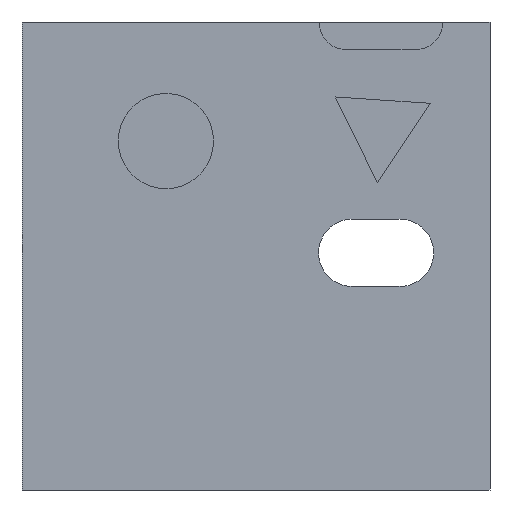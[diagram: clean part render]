
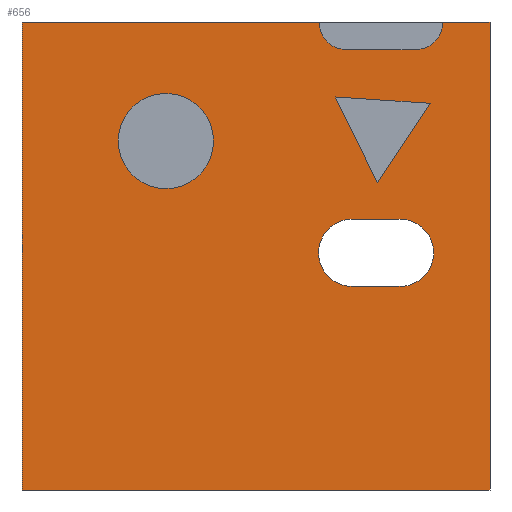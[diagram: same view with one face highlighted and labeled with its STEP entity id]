
A CAD part, left-side view. The second image highlights one B-rep face of the part: STEP entity #656.
In plain terms, the highlighted planar face has unit normal (-1, 0, 0).
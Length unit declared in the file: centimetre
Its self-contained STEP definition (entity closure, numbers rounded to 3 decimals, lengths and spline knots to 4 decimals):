
#2 = EDGE_CURVE ( 'NONE', #1481, #1441, #1177, .T. ) ;
#13 = CARTESIAN_POINT ( 'NONE',  ( 0., 1000., 1000. ) ) ;
#22 = ORIENTED_EDGE ( 'NONE', *, *, #423, .F. ) ;
#26 = DIRECTION ( 'NONE',  ( 0., 0., -1. ) ) ;
#49 = CARTESIAN_POINT ( 'NONE',  ( 0., 127.5835, 826.3432 ) ) ;
#66 = CIRCLE ( 'NONE', #1091, 101.7197 ) ;
#68 = ORIENTED_EDGE ( 'NONE', *, *, #615, .T. ) ;
#87 = CARTESIAN_POINT ( 'NONE',  ( 0., 127.5835, 826.3432 ) ) ;
#91 = VECTOR ( 'NONE', #1482, 100. ) ;
#92 = CARTESIAN_POINT ( 'NONE',  ( 0., 294.3536, 578.862 ) ) ;
#129 = ORIENTED_EDGE ( 'NONE', *, *, #510, .F. ) ;
#137 = VECTOR ( 'NONE', #753, 100. ) ;
#140 = DIRECTION ( 'NONE',  ( 0., 0., -1. ) ) ;
#158 = CARTESIAN_POINT ( 'NONE',  ( 0., 1000., 1000. ) ) ;
#170 = CARTESIAN_POINT ( 'NONE',  ( 0., 294.3536, 506.8964 ) ) ;
#172 = CARTESIAN_POINT ( 'NONE',  ( 0., 192.2931, 434.9308 ) ) ;
#176 = CARTESIAN_POINT ( 'NONE',  ( 0., 692.5034, 745.5898 ) ) ;
#177 = ORIENTED_EDGE ( 'NONE', *, *, #807, .F. ) ;
#197 = EDGE_CURVE ( 'NONE', #829, #970, #257, .T. ) ;
#206 = VECTOR ( 'NONE', #876, 100. ) ;
#237 = AXIS2_PLACEMENT_3D ( 'NONE', #170, #611, #26 ) ;
#241 = EDGE_CURVE ( 'NONE', #1432, #482, #503, .T. ) ;
#257 = CIRCLE ( 'NONE', #292, 59.2285 ) ;
#280 = AXIS2_PLACEMENT_3D ( 'NONE', #434, #561, #1129 ) ;
#281 = CARTESIAN_POINT ( 'NONE',  ( 0., 305.8696, 940.7715 ) ) ;
#292 = AXIS2_PLACEMENT_3D ( 'NONE', #1438, #382, #757 ) ;
#297 = CARTESIAN_POINT ( 'NONE',  ( 0., 305.8696, 1000. ) ) ;
#301 = CARTESIAN_POINT ( 'NONE',  ( 0., 330.5135, 839.7501 ) ) ;
#313 = CARTESIAN_POINT ( 'NONE',  ( 0., 240.6592, 657.304 ) ) ;
#332 = VECTOR ( 'NONE', #1382, 100. ) ;
#340 = DIRECTION ( 'NONE',  ( 0., 0., -1. ) ) ;
#342 = ORIENTED_EDGE ( 'NONE', *, *, #1016, .T. ) ;
#379 = ORIENTED_EDGE ( 'NONE', *, *, #842, .T. ) ;
#382 = DIRECTION ( 'NONE',  ( -1., 0., 0. ) ) ;
#400 = VERTEX_POINT ( 'NONE', #281 ) ;
#403 = CARTESIAN_POINT ( 'NONE',  ( 0., 1000., 0. ) ) ;
#419 = LINE ( 'NONE', #894, #91 ) ;
#423 = EDGE_CURVE ( 'NONE', #400, #829, #1095, .T. ) ;
#434 = CARTESIAN_POINT ( 'NONE',  ( 0., 192.2931, 506.8964 ) ) ;
#440 = CARTESIAN_POINT ( 'NONE',  ( 0., 0., 1000. ) ) ;
#443 = CARTESIAN_POINT ( 'NONE',  ( 0., 294.3536, 434.9308 ) ) ;
#456 = ORIENTED_EDGE ( 'NONE', *, *, #197, .F. ) ;
#482 = VERTEX_POINT ( 'NONE', #1049 ) ;
#503 = LINE ( 'NONE', #980, #1498 ) ;
#507 = VECTOR ( 'NONE', #760, 100. ) ;
#510 = EDGE_CURVE ( 'NONE', #1184, #838, #1062, .T. ) ;
#512 = DIRECTION ( 'NONE',  ( 0., 0., 1. ) ) ;
#514 = CARTESIAN_POINT ( 'NONE',  ( 0., 1000., 1000. ) ) ;
#521 = EDGE_LOOP ( 'NONE', ( #1136, #379, #342, #68 ) ) ;
#522 = ORIENTED_EDGE ( 'NONE', *, *, #1064, .F. ) ;
#523 = FACE_BOUND ( 'NONE', #1198, .T. ) ;
#529 = VECTOR ( 'NONE', #1351, 100. ) ;
#534 = CARTESIAN_POINT ( 'NONE',  ( 0., 330.5135, 839.7501 ) ) ;
#559 = AXIS2_PLACEMENT_3D ( 'NONE', #297, #758, #340 ) ;
#561 = DIRECTION ( 'NONE',  ( 1., 0., 0. ) ) ;
#568 = CARTESIAN_POINT ( 'NONE',  ( 0., 692.5034, 745.5898 ) ) ;
#572 = CARTESIAN_POINT ( 'NONE',  ( 0., 100.9507, 1000. ) ) ;
#577 = VECTOR ( 'NONE', #998, 100. ) ;
#598 = VERTEX_POINT ( 'NONE', #49 ) ;
#611 = DIRECTION ( 'NONE',  ( 1., 0., 0. ) ) ;
#615 = EDGE_CURVE ( 'NONE', #824, #1432, #664, .T. ) ;
#632 = FACE_BOUND ( 'NONE', #521, .T. ) ;
#656 = ADVANCED_FACE ( 'NONE', ( #729, #632, #523, #1004 ), #723, .F. ) ;
#664 = CIRCLE ( 'NONE', #237, 71.9656 ) ;
#666 = LINE ( 'NONE', #301, #507 ) ;
#667 = LINE ( 'NONE', #87, #137 ) ;
#691 = CARTESIAN_POINT ( 'NONE',  ( 0., 240.6592, 657.304 ) ) ;
#723 = PLANE ( 'NONE',  #782 ) ;
#729 = FACE_BOUND ( 'NONE', #958, .T. ) ;
#753 = DIRECTION ( 'NONE',  ( 0., 0.998, 0.066 ) ) ;
#757 = DIRECTION ( 'NONE',  ( 0., 0., -1. ) ) ;
#758 = DIRECTION ( 'NONE',  ( -1., 0., 0. ) ) ;
#759 = ORIENTED_EDGE ( 'NONE', *, *, #898, .F. ) ;
#760 = DIRECTION ( 'NONE',  ( 0., -0.442, -0.897 ) ) ;
#766 = LINE ( 'NONE', #313, #577 ) ;
#782 = AXIS2_PLACEMENT_3D ( 'NONE', #514, #1325, #969 ) ;
#804 = VERTEX_POINT ( 'NONE', #534 ) ;
#807 = EDGE_CURVE ( 'NONE', #804, #872, #666, .T. ) ;
#819 = CIRCLE ( 'NONE', #903, 101.7197 ) ;
#823 = EDGE_CURVE ( 'NONE', #1419, #835, #819, .T. ) ;
#824 = VERTEX_POINT ( 'NONE', #443 ) ;
#829 = VERTEX_POINT ( 'NONE', #1488 ) ;
#834 = EDGE_CURVE ( 'NONE', #1184, #1314, #419, .T. ) ;
#835 = VERTEX_POINT ( 'NONE', #1343 ) ;
#838 = VERTEX_POINT ( 'NONE', #1349 ) ;
#842 = EDGE_CURVE ( 'NONE', #482, #1082, #1203, .T. ) ;
#869 = CARTESIAN_POINT ( 'NONE',  ( 0., 1000., 0. ) ) ;
#872 = VERTEX_POINT ( 'NONE', #691 ) ;
#876 = DIRECTION ( 'NONE',  ( 0., -1., 0. ) ) ;
#877 = CARTESIAN_POINT ( 'NONE',  ( 0., 160.1792, 940.7715 ) ) ;
#881 = VECTOR ( 'NONE', #1293, 100. ) ;
#894 = CARTESIAN_POINT ( 'NONE',  ( 0., 1000., 1000. ) ) ;
#898 = EDGE_CURVE ( 'NONE', #970, #1481, #1376, .T. ) ;
#901 = ORIENTED_EDGE ( 'NONE', *, *, #823, .F. ) ;
#903 = AXIS2_PLACEMENT_3D ( 'NONE', #568, #1472, #1142 ) ;
#916 = VECTOR ( 'NONE', #140, 100. ) ;
#929 = CIRCLE ( 'NONE', #559, 59.2285 ) ;
#935 = VECTOR ( 'NONE', #1328, 100. ) ;
#939 = CARTESIAN_POINT ( 'NONE',  ( 0., 0., 0. ) ) ;
#958 = EDGE_LOOP ( 'NONE', ( #901, #1102 ) ) ;
#969 = DIRECTION ( 'NONE',  ( 0., 0., -1. ) ) ;
#970 = VERTEX_POINT ( 'NONE', #572 ) ;
#980 = CARTESIAN_POINT ( 'NONE',  ( 0., 294.3536, 578.862 ) ) ;
#995 = LINE ( 'NONE', #403, #206 ) ;
#998 = DIRECTION ( 'NONE',  ( 0., -0.556, 0.831 ) ) ;
#1004 = FACE_OUTER_BOUND ( 'NONE', #1110, .T. ) ;
#1016 = EDGE_CURVE ( 'NONE', #1082, #824, #1462, .T. ) ;
#1049 = CARTESIAN_POINT ( 'NONE',  ( 0., 192.2931, 578.862 ) ) ;
#1053 = ORIENTED_EDGE ( 'NONE', *, *, #1200, .F. ) ;
#1062 = LINE ( 'NONE', #13, #881 ) ;
#1064 = EDGE_CURVE ( 'NONE', #598, #804, #667, .T. ) ;
#1082 = VERTEX_POINT ( 'NONE', #172 ) ;
#1091 = AXIS2_PLACEMENT_3D ( 'NONE', #176, #1450, #512 ) ;
#1092 = ORIENTED_EDGE ( 'NONE', *, *, #2, .F. ) ;
#1095 = LINE ( 'NONE', #877, #935 ) ;
#1101 = ORIENTED_EDGE ( 'NONE', *, *, #834, .T. ) ;
#1102 = ORIENTED_EDGE ( 'NONE', *, *, #1266, .F. ) ;
#1110 = EDGE_LOOP ( 'NONE', ( #759, #456, #22, #1285, #129, #1101, #1368, #1092 ) ) ;
#1129 = DIRECTION ( 'NONE',  ( 0., 0., -1. ) ) ;
#1136 = ORIENTED_EDGE ( 'NONE', *, *, #241, .T. ) ;
#1142 = DIRECTION ( 'NONE',  ( 0., 0., 1. ) ) ;
#1151 = EDGE_CURVE ( 'NONE', #1314, #1441, #995, .T. ) ;
#1156 = CARTESIAN_POINT ( 'NONE',  ( 0., 1000., 1000. ) ) ;
#1177 = LINE ( 'NONE', #1273, #916 ) ;
#1184 = VERTEX_POINT ( 'NONE', #158 ) ;
#1198 = EDGE_LOOP ( 'NONE', ( #1053, #177, #522 ) ) ;
#1200 = EDGE_CURVE ( 'NONE', #872, #598, #766, .T. ) ;
#1203 = CIRCLE ( 'NONE', #280, 71.9656 ) ;
#1250 = CARTESIAN_POINT ( 'NONE',  ( 0., 192.2931, 434.9308 ) ) ;
#1266 = EDGE_CURVE ( 'NONE', #835, #1419, #66, .T. ) ;
#1273 = CARTESIAN_POINT ( 'NONE',  ( 0., 0., 1000. ) ) ;
#1285 = ORIENTED_EDGE ( 'NONE', *, *, #1355, .F. ) ;
#1293 = DIRECTION ( 'NONE',  ( 0., -1., 0. ) ) ;
#1314 = VERTEX_POINT ( 'NONE', #869 ) ;
#1325 = DIRECTION ( 'NONE',  ( 1., 0., 0. ) ) ;
#1328 = DIRECTION ( 'NONE',  ( 0., -1., 0. ) ) ;
#1343 = CARTESIAN_POINT ( 'NONE',  ( 0., 692.5034, 643.8701 ) ) ;
#1349 = CARTESIAN_POINT ( 'NONE',  ( 0., 365.098, 1000. ) ) ;
#1351 = DIRECTION ( 'NONE',  ( 0., 1., 0. ) ) ;
#1355 = EDGE_CURVE ( 'NONE', #838, #400, #929, .T. ) ;
#1368 = ORIENTED_EDGE ( 'NONE', *, *, #1151, .T. ) ;
#1376 = LINE ( 'NONE', #1156, #332 ) ;
#1381 = CARTESIAN_POINT ( 'NONE',  ( 0., 692.5034, 847.3095 ) ) ;
#1382 = DIRECTION ( 'NONE',  ( 0., -1., 0. ) ) ;
#1419 = VERTEX_POINT ( 'NONE', #1381 ) ;
#1425 = DIRECTION ( 'NONE',  ( 0., -1., 0. ) ) ;
#1432 = VERTEX_POINT ( 'NONE', #92 ) ;
#1438 = CARTESIAN_POINT ( 'NONE',  ( 0., 160.1792, 1000. ) ) ;
#1441 = VERTEX_POINT ( 'NONE', #939 ) ;
#1450 = DIRECTION ( 'NONE',  ( -1., 0., 0. ) ) ;
#1462 = LINE ( 'NONE', #1250, #529 ) ;
#1472 = DIRECTION ( 'NONE',  ( -1., 0., 0. ) ) ;
#1481 = VERTEX_POINT ( 'NONE', #440 ) ;
#1482 = DIRECTION ( 'NONE',  ( 0., 0., -1. ) ) ;
#1488 = CARTESIAN_POINT ( 'NONE',  ( 0., 160.1792, 940.7715 ) ) ;
#1498 = VECTOR ( 'NONE', #1425, 100. ) ;
